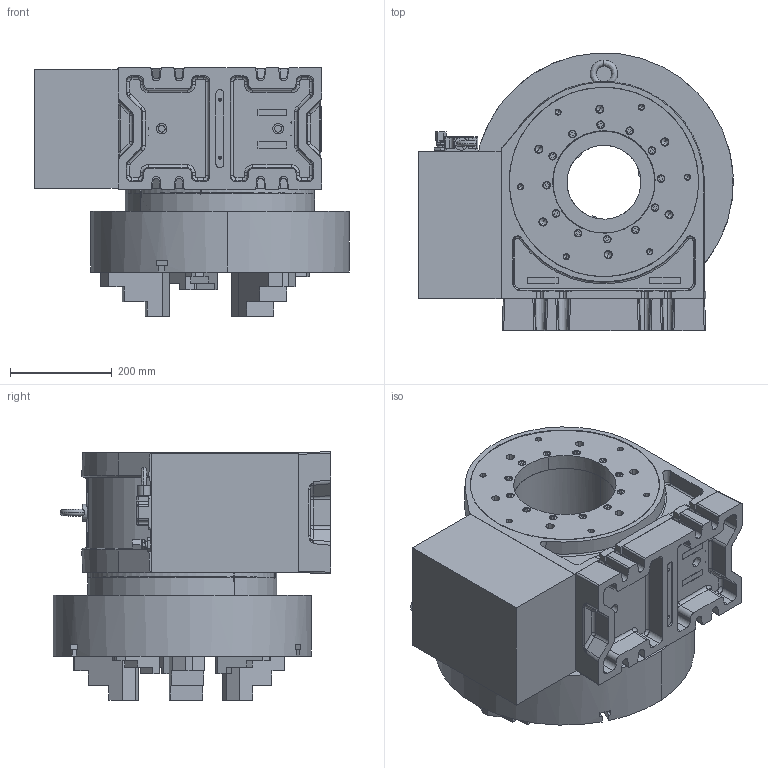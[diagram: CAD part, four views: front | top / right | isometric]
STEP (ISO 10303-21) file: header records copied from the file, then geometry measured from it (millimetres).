
FILE_DESCRIPTION (( 'STEP AP203' ), '1' );
FILE_NAME ('LT350_11_2024.STEP', '2024-11-19T00:00:04', ( '' ), ( '' ), 'SwSTEP 2.0', 'SolidWorks 2022', '' );
FILE_SCHEMA (( 'CONFIG_CONTROL_DESIGN' ));
Length unit declared in the file: inch
Products named in the file (8): LT350_-Lifting Eyebolt; LT350_12 Inch Chuck; LT350_Rotary Body; LT350_20 Inch Chuck; LT350_Bolt Hole Platter; LT350_2.5 Inch Riser; LT350_11_2024; LT350_T-Slot Platter
Assembly tree (7 placements, depth 2):
  LT350_11_2024
    LT350_Rotary Body
    LT350_-Lifting Eyebolt
    LT350_T-Slot Platter
    LT350_Bolt Hole Platter
    LT350_12 Inch Chuck
    LT350_20 Inch Chuck
    LT350_2.5 Inch Riser
Bounding box: 617.57 x 545.68 x 488.32 mm (x, y, z)
Volume: 73137172.5 mm3; surface area: 3175341 mm2
Topology: 7 solids, 7 shells, 1884 faces, 4752 edges, 2969 vertices
Faces by surface type: plane 746, cylinder 720, cone 247, bspline 109, torus 58, sphere 4
Entity records: 63387 total; most frequent: CARTESIAN_POINT 18674, ORIENTED_EDGE 9292, DIRECTION 9063, EDGE_CURVE 4646, AXIS2_PLACEMENT_3D 3387, VERTEX_POINT 2969, LINE 2289, VECTOR 2289
